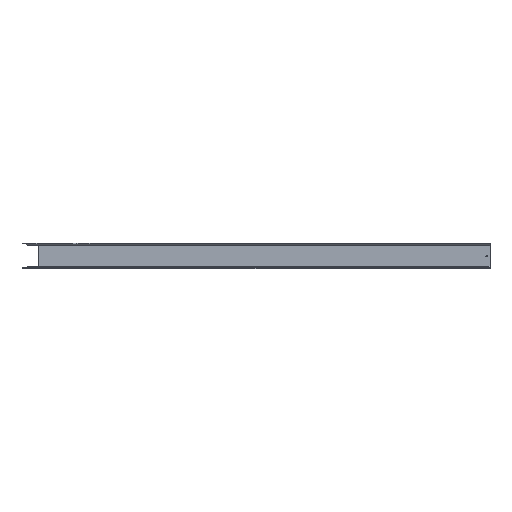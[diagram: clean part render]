
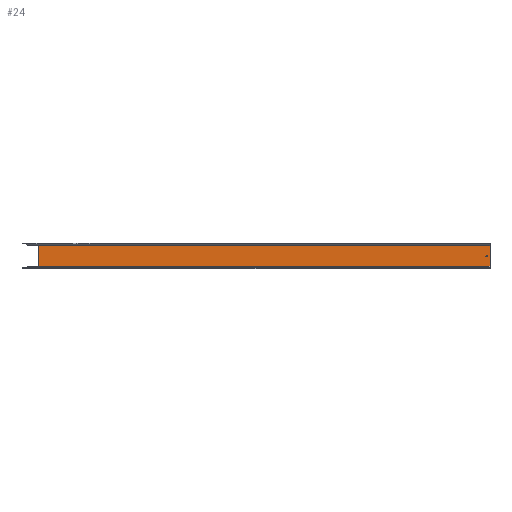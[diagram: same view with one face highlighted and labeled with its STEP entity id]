
A CAD part, front view. The second image highlights one B-rep face of the part: STEP entity #24.
In plain terms, the highlighted planar face has unit normal (0, -1, 0).
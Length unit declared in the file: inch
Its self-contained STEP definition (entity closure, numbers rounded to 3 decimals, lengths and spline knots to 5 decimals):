
#24 = ADVANCED_FACE ( 'NONE', ( #2176, #2190 ), #205, .T. ) ;
#113 = DIRECTION ( 'NONE',  ( 0., 0., -1. ) ) ;
#194 = CARTESIAN_POINT ( 'NONE',  ( 0., -0.036, 0. ) ) ;
#202 = DIRECTION ( 'NONE',  ( 0., 0., -1. ) ) ;
#205 = PLANE ( 'NONE',  #648 ) ;
#206 = DIRECTION ( 'NONE',  ( 0., -1., 0. ) ) ;
#395 = CARTESIAN_POINT ( 'NONE',  ( 28., -0.036, 0. ) ) ;
#463 = EDGE_CURVE ( 'NONE', #2525, #679, #2301, .T. ) ;
#473 = EDGE_CURVE ( 'NONE', #704, #705, #2351, .T. ) ;
#480 = EDGE_CURVE ( 'NONE', #679, #2536, #2341, .T. ) ;
#497 = EDGE_CURVE ( 'NONE', #705, #704, #2366, .T. ) ;
#507 = EDGE_CURVE ( 'NONE', #712, #2536, #2405, .T. ) ;
#509 = EDGE_CURVE ( 'NONE', #712, #2525, #2428, .T. ) ;
#604 = AXIS2_PLACEMENT_3D ( 'NONE', #1636, #1637, #1645 ) ;
#607 = AXIS2_PLACEMENT_3D ( 'NONE', #1721, #1722, #1711 ) ;
#648 = AXIS2_PLACEMENT_3D ( 'NONE', #194, #206, #202 ) ;
#679 = VERTEX_POINT ( 'NONE', #1358 ) ;
#704 = VERTEX_POINT ( 'NONE', #1393 ) ;
#705 = VERTEX_POINT ( 'NONE', #1409 ) ;
#712 = VERTEX_POINT ( 'NONE', #1374 ) ;
#917 = EDGE_LOOP ( 'NONE', ( #2557, #2569, #2537, #2544 ) ) ;
#958 = EDGE_LOOP ( 'NONE', ( #2554, #2568 ) ) ;
#1358 = CARTESIAN_POINT ( 'NONE',  ( 28., -0.036, -1.43375 ) ) ;
#1374 = CARTESIAN_POINT ( 'NONE',  ( 1., -0.036, -0.029 ) ) ;
#1393 = CARTESIAN_POINT ( 'NONE',  ( 27.8, -0.036, -0.7715 ) ) ;
#1409 = CARTESIAN_POINT ( 'NONE',  ( 27.8, -0.036, -0.6915 ) ) ;
#1545 = CARTESIAN_POINT ( 'NONE',  ( 28., -0.036, -0.029 ) ) ;
#1563 = CARTESIAN_POINT ( 'NONE',  ( 1., -0.036, -1.43375 ) ) ;
#1636 = CARTESIAN_POINT ( 'NONE',  ( 27.8, -0.036, -0.7315 ) ) ;
#1637 = DIRECTION ( 'NONE',  ( 0., 1., 0. ) ) ;
#1645 = DIRECTION ( 'NONE',  ( 0., 0., -1. ) ) ;
#1656 = DIRECTION ( 'NONE',  ( -1., 0., 0. ) ) ;
#1661 = CARTESIAN_POINT ( 'NONE',  ( 28., -0.036, -1.43375 ) ) ;
#1711 = DIRECTION ( 'NONE',  ( 0., 0., -1. ) ) ;
#1712 = CARTESIAN_POINT ( 'NONE',  ( 1., -0.036, 0. ) ) ;
#1721 = CARTESIAN_POINT ( 'NONE',  ( 27.8, -0.036, -0.7315 ) ) ;
#1722 = DIRECTION ( 'NONE',  ( 0., 1., 0. ) ) ;
#1723 = CARTESIAN_POINT ( 'NONE',  ( 0., -0.036, -0.029 ) ) ;
#1725 = DIRECTION ( 'NONE',  ( 0., 0., -1. ) ) ;
#1730 = DIRECTION ( 'NONE',  ( 1., 0., 0. ) ) ;
#2176 = FACE_BOUND ( 'NONE', #958, .T. ) ;
#2190 = FACE_OUTER_BOUND ( 'NONE', #917, .T. ) ;
#2301 = LINE ( 'NONE', #395, #2327 ) ;
#2327 = VECTOR ( 'NONE', #113, 39.37008 ) ;
#2331 = VECTOR ( 'NONE', #1656, 39.37008 ) ;
#2341 = LINE ( 'NONE', #1661, #2331 ) ;
#2351 = CIRCLE ( 'NONE', #604, 0.04 ) ;
#2366 = CIRCLE ( 'NONE', #607, 0.04 ) ;
#2405 = LINE ( 'NONE', #1712, #2429 ) ;
#2423 = VECTOR ( 'NONE', #1730, 39.37008 ) ;
#2428 = LINE ( 'NONE', #1723, #2423 ) ;
#2429 = VECTOR ( 'NONE', #1725, 39.37008 ) ;
#2525 = VERTEX_POINT ( 'NONE', #1545 ) ;
#2536 = VERTEX_POINT ( 'NONE', #1563 ) ;
#2537 = ORIENTED_EDGE ( 'NONE', *, *, #480, .F. ) ;
#2544 = ORIENTED_EDGE ( 'NONE', *, *, #463, .F. ) ;
#2554 = ORIENTED_EDGE ( 'NONE', *, *, #497, .T. ) ;
#2557 = ORIENTED_EDGE ( 'NONE', *, *, #509, .F. ) ;
#2568 = ORIENTED_EDGE ( 'NONE', *, *, #473, .T. ) ;
#2569 = ORIENTED_EDGE ( 'NONE', *, *, #507, .T. ) ;
